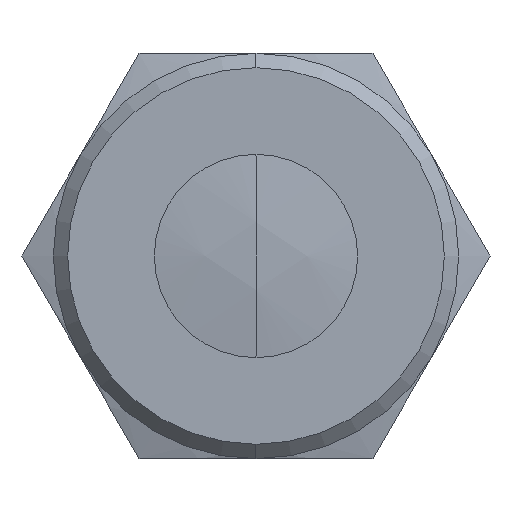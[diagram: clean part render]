
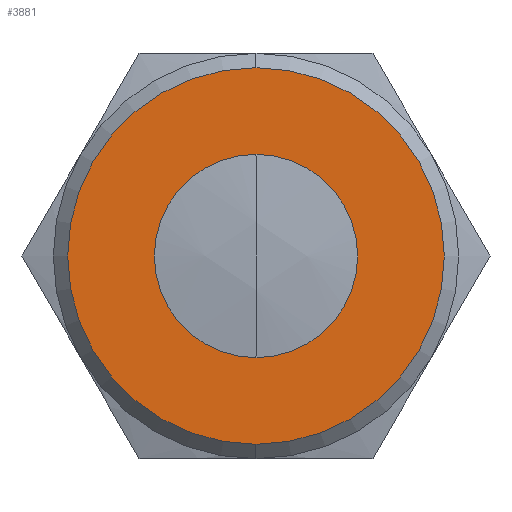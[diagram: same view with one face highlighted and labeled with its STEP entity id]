
A CAD part, left-side view. The second image highlights one B-rep face of the part: STEP entity #3881.
In plain terms, the highlighted planar face has unit normal (-1, 0, 0).
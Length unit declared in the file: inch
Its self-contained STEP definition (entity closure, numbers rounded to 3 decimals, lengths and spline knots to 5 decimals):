
#973=CARTESIAN_POINT('',(-1.673,0.,-0.2195));
#974=VERTEX_POINT('',#973);
#983=CARTESIAN_POINT('',(-1.673,0.,0.2195));
#984=VERTEX_POINT('',#983);
#991=CARTESIAN_POINT('',(-1.673,0.,0.));
#992=DIRECTION('',(1.0,0.0,0.0));
#993=DIRECTION('',(0.0,0.0,-1.0));
#994=AXIS2_PLACEMENT_3D('',#991,#992,#993);
#995=CIRCLE('',#994,0.2195);
#996=EDGE_CURVE('',#974,#984,#995,.T.);
#1126=CARTESIAN_POINT('',(-1.673,0.,-0.4065));
#1127=VERTEX_POINT('',#1126);
#1134=CARTESIAN_POINT('',(-1.673,0.,0.4065));
#1135=VERTEX_POINT('',#1134);
#1136=CARTESIAN_POINT('',(-1.673,0.,0.));
#1137=DIRECTION('',(1.0,0.0,0.0));
#1138=DIRECTION('',(0.0,0.0,-1.0));
#1139=AXIS2_PLACEMENT_3D('',#1136,#1137,#1138);
#1140=CIRCLE('',#1139,0.4065);
#1141=EDGE_CURVE('',#1127,#1135,#1140,.T.);
#3852=CARTESIAN_POINT('',(-1.673,0.,0.));
#3853=DIRECTION('',(1.0,0.0,0.0));
#3854=DIRECTION('',(0.0,0.0,-1.0));
#3855=AXIS2_PLACEMENT_3D('',#3852,#3853,#3854);
#3856=CIRCLE('',#3855,0.4065);
#3857=EDGE_CURVE('',#1135,#1127,#3856,.T.);
#3862=CARTESIAN_POINT('',(-1.673,0.,-0.20325));
#3863=DIRECTION('',(-1.0,0.0,0.0));
#3864=DIRECTION('',(0.0,-1.0,0.0));
#3865=AXIS2_PLACEMENT_3D('',#3862,#3863,#3864);
#3866=PLANE('',#3865);
#3867=ORIENTED_EDGE('',*,*,#1141,.F.);
#3868=ORIENTED_EDGE('',*,*,#3857,.F.);
#3869=EDGE_LOOP('',(#3867,#3868));
#3870=FACE_OUTER_BOUND('',#3869,.T.);
#3871=ORIENTED_EDGE('',*,*,#996,.T.);
#3872=CARTESIAN_POINT('',(-1.673,0.,0.));
#3873=DIRECTION('',(1.0,0.0,0.0));
#3874=DIRECTION('',(0.0,0.0,-1.0));
#3875=AXIS2_PLACEMENT_3D('',#3872,#3873,#3874);
#3876=CIRCLE('',#3875,0.2195);
#3877=EDGE_CURVE('',#984,#974,#3876,.T.);
#3878=ORIENTED_EDGE('',*,*,#3877,.T.);
#3879=EDGE_LOOP('',(#3871,#3878));
#3880=FACE_BOUND('',#3879,.T.);
#3881=ADVANCED_FACE('',(#3870,#3880),#3866,.T.);
